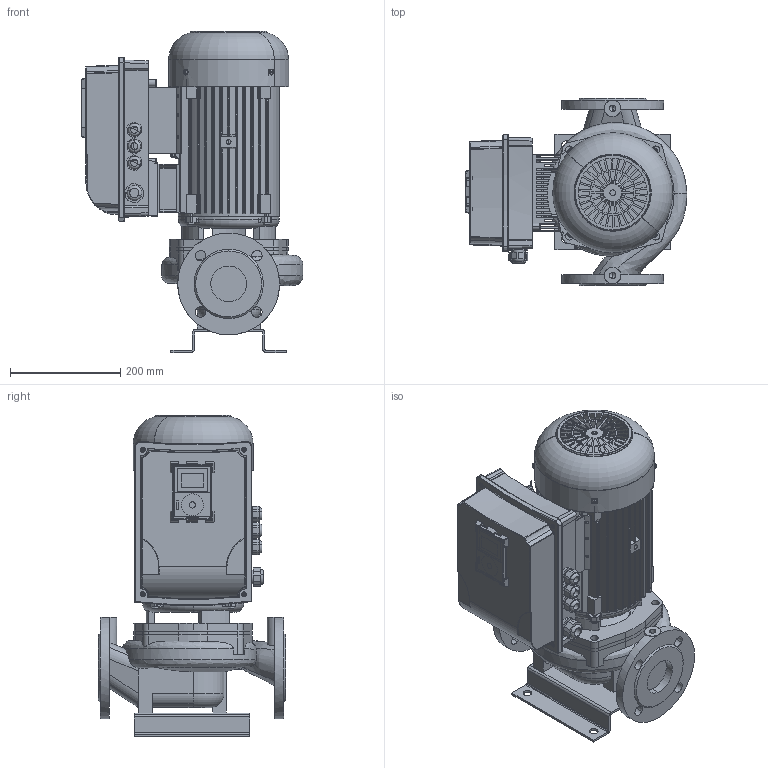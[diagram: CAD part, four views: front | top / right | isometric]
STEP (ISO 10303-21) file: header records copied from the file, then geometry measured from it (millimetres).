
FILE_DESCRIPTION(('STEP AP214'),'1');
FILE_NAME('export.stp','2018-06-01T13:08:22',(' '),(' '),'Spatial InterOp 3D',' ',' ');
FILE_SCHEMA(('AUTOMOTIVE_DESIGN { 1 0 10303 214 1 1 1 1 }'));
Length unit declared in the file: millimetre
Products named in the file (26): W_ALP10652400KPVS; V_TLL65AB80A1102; V_PPL65AB; V_JALKA35973; 440017; 440016; V_MKP112-1-F19_VS; 440015___; 440018; 440021; DIN_EN_24017_-_M6_30_DIN_EN_2401; DIN_EN_ISO_7045-M5X6_DIN_EN_ISO_; Vacon_MS2; G43699; Vacon20CP_MS2; MS2_bottom_final; P101407; MS2_cover_final; Vacon_Display; CAD-3D-VACON-M100-Display.sldasm; Vacon_display_pla; Vacon_display_scr; DIN_966-M5x10; M20_tiivisteholkk; M25_tiivisteholkk; SOVITUSPALA
Assembly tree (40 placements, depth 6):
  W_ALP10652400KPVS
    V_TLL65AB80A1102
    V_PPL65AB
    V_JALKA35973
    V_MKP112-1-F19_VS
      440017
        440016
      440015___
      440018
      440021
      DIN_EN_24017_-_M6_30_DIN_EN_2401  x8
      DIN_EN_ISO_7045-M5X6_DIN_EN_ISO_  x4
      Vacon_MS2
        G43699
        Vacon20CP_MS2
          MS2_bottom_final
          P101407
          MS2_cover_final
          Vacon_Display
            CAD-3D-VACON-M100-Display.sldasm
            Vacon_display_pla
            Vacon_display_scr
          DIN_966-M5x10  x4
          M20_tiivisteholkk  x3
          M25_tiivisteholkk
      SOVITUSPALA
Bounding box: 403.31 x 340 x 584.2 mm (x, y, z)
Volume: 8642781.3 mm3; surface area: 2224381.2 mm2
Topology: 34 solids, 1507 shells, 4773 faces, 16515 edges, 13299 vertices
Faces by surface type: bspline 1605, cylinder 1303, plane 1203, cone 323, torus 296, sphere 43
Entity records: 212072 total; most frequent: CARTESIAN_POINT 85475, ORIENTED_EDGE 22876, EDGE_CURVE 15260, DIRECTION 15008, VERTEX_POINT 12599, B_SPLINE_CURVE_WITH_KNOTS 7498, AXIS2_PLACEMENT_3D 5817, EDGE_LOOP 4747
